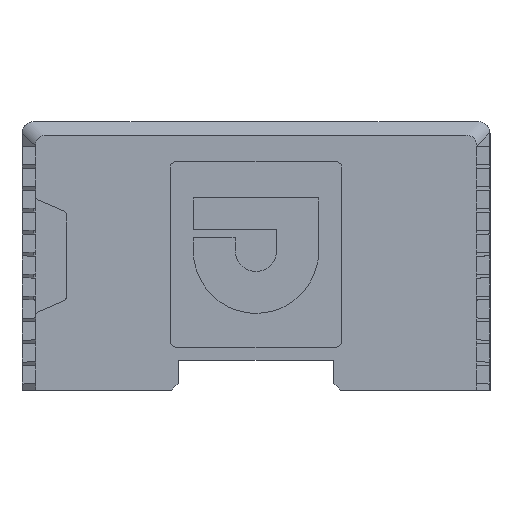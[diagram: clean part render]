
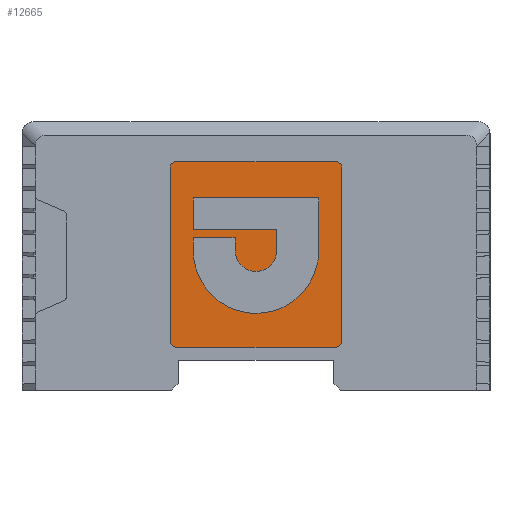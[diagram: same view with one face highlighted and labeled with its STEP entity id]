
A CAD part, top view. The second image highlights one B-rep face of the part: STEP entity #12665.
In plain terms, the highlighted planar face has unit normal (0, 0, 1).
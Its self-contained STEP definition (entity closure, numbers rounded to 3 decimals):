
#760=CARTESIAN_POINT('',(18.076,20.,4.2));
#761=DIRECTION('',(0.,0.,1.));
#762=DIRECTION('',(1.,0.,0.));
#763=AXIS2_PLACEMENT_3D('',#760,#761,#762);
#768=DIRECTION('',(0.,-1.,0.));
#769=VECTOR('',#768,39.3);
#770=CARTESIAN_POINT('',(19.576,20.,4.2));
#771=LINE('',#770,#769);
#775=CARTESIAN_POINT('',(18.076,-19.3,4.2));
#776=DIRECTION('',(0.,0.,1.));
#777=DIRECTION('',(0.,-1.,0.));
#778=AXIS2_PLACEMENT_3D('',#775,#776,#777);
#783=DIRECTION('',(1.,0.,0.));
#784=VECTOR('',#783,36.151);
#785=CARTESIAN_POINT('',(-18.076,-20.8,4.2));
#786=LINE('',#785,#784);
#790=CARTESIAN_POINT('',(-18.076,-19.3,4.2));
#791=DIRECTION('',(0.,0.,1.));
#792=DIRECTION('',(-1.,0.,0.));
#793=AXIS2_PLACEMENT_3D('',#790,#791,#792);
#798=DIRECTION('',(0.,-1.,0.));
#799=VECTOR('',#798,39.3);
#800=CARTESIAN_POINT('',(-19.576,20.,4.2));
#801=LINE('',#800,#799);
#805=CARTESIAN_POINT('',(-18.076,20.,4.2));
#806=DIRECTION('',(0.,0.,1.));
#807=DIRECTION('',(0.,1.,0.));
#808=AXIS2_PLACEMENT_3D('',#805,#806,#807);
#813=DIRECTION('',(1.,0.,0.));
#814=VECTOR('',#813,36.151);
#815=CARTESIAN_POINT('',(-18.076,21.5,4.2));
#816=LINE('',#815,#814);
#820=DIRECTION('',(-1.,0.,0.));
#821=VECTOR('',#820,28.657);
#822=CARTESIAN_POINT('',(14.333,13.202,4.2));
#823=LINE('',#822,#821);
#827=DIRECTION('',(0.,-1.,0.));
#828=VECTOR('',#827,7.175);
#829=CARTESIAN_POINT('',(-14.324,13.202,4.2));
#830=LINE('',#829,#828);
#834=DIRECTION('',(1.,0.,0.));
#835=VECTOR('',#834,19.038);
#836=CARTESIAN_POINT('',(-14.324,6.027,4.2));
#837=LINE('',#836,#835);
#841=DIRECTION('',(0.001,-1.,0.));
#842=VECTOR('',#841,4.836);
#843=CARTESIAN_POINT('',(4.714,6.027,4.2));
#844=LINE('',#843,#842);
#848=CARTESIAN_POINT('',(4.72,1.191,4.2));
#849=CARTESIAN_POINT('',(4.72,-0.014,4.2));
#850=CARTESIAN_POINT('',(3.953,-1.915,4.2));
#851=CARTESIAN_POINT('',(1.875,-3.28,4.2));
#852=CARTESIAN_POINT('',(0.,-3.652,4.2));
#853=CARTESIAN_POINT('',(-1.884,-3.27,4.2));
#854=CARTESIAN_POINT('',(-3.974,-1.881,4.2));
#855=CARTESIAN_POINT('',(-4.772,0.033,4.2));
#856=CARTESIAN_POINT('',(-4.772,1.251,4.2));
#861=DIRECTION('',(0.,1.,0.));
#862=VECTOR('',#861,2.866);
#863=CARTESIAN_POINT('',(-4.772,1.251,4.2));
#864=LINE('',#863,#862);
#868=DIRECTION('',(-1.,0.,0.));
#869=VECTOR('',#868,9.552);
#870=CARTESIAN_POINT('',(-4.772,4.117,4.2));
#871=LINE('',#870,#869);
#875=DIRECTION('',(0.,-1.,0.));
#876=VECTOR('',#875,2.866);
#877=CARTESIAN_POINT('',(-14.324,4.117,4.2));
#878=LINE('',#877,#876);
#882=CARTESIAN_POINT('',(-14.324,1.251,4.2));
#883=CARTESIAN_POINT('',(-14.324,-2.404,4.2));
#884=CARTESIAN_POINT('',(-11.935,-8.148,4.2));
#885=CARTESIAN_POINT('',(-6.465,-11.768,4.2));
#886=CARTESIAN_POINT('',(-2.875,-12.887,4.2));
#887=CARTESIAN_POINT('',(0.004,-13.174,4.2));
#888=CARTESIAN_POINT('',(2.883,-12.887,4.2));
#889=CARTESIAN_POINT('',(6.473,-11.768,4.2));
#890=CARTESIAN_POINT('',(11.943,-8.148,4.2));
#891=CARTESIAN_POINT('',(14.333,-2.404,4.2));
#892=CARTESIAN_POINT('',(14.333,1.251,4.2));
#897=DIRECTION('',(0.,1.,0.));
#898=VECTOR('',#897,11.951);
#899=CARTESIAN_POINT('',(14.333,1.251,4.2));
#900=LINE('',#899,#898);
#10368=CARTESIAN_POINT('',(-19.576,-19.3,4.2));
#10369=CARTESIAN_POINT('',(-18.076,-20.8,4.2));
#10370=VERTEX_POINT('',#10368);
#10371=VERTEX_POINT('',#10369);
#10376=CARTESIAN_POINT('',(18.076,-20.8,4.2));
#10378=VERTEX_POINT('',#10376);
#10380=CARTESIAN_POINT('',(19.576,-19.3,4.2));
#10381=VERTEX_POINT('',#10380);
#10402=CARTESIAN_POINT('',(14.333,13.202,4.2));
#10403=CARTESIAN_POINT('',(-14.324,13.202,4.2));
#10404=VERTEX_POINT('',#10402);
#10405=VERTEX_POINT('',#10403);
#10406=CARTESIAN_POINT('',(-14.324,6.027,4.2));
#10407=VERTEX_POINT('',#10406);
#10408=CARTESIAN_POINT('',(4.714,6.027,4.2));
#10409=VERTEX_POINT('',#10408);
#10410=CARTESIAN_POINT('',(4.72,1.191,4.2));
#10411=VERTEX_POINT('',#10410);
#10412=VERTEX_POINT('',#856);
#10413=CARTESIAN_POINT('',(-4.772,4.117,4.2));
#10414=VERTEX_POINT('',#10413);
#10415=CARTESIAN_POINT('',(-14.324,4.117,4.2));
#10416=VERTEX_POINT('',#10415);
#10417=CARTESIAN_POINT('',(-14.324,1.251,4.2));
#10418=VERTEX_POINT('',#10417);
#10419=VERTEX_POINT('',#892);
#10620=CARTESIAN_POINT('',(19.576,20.,4.2));
#10622=VERTEX_POINT('',#10620);
#10624=CARTESIAN_POINT('',(18.076,21.5,4.2));
#10625=VERTEX_POINT('',#10624);
#10628=CARTESIAN_POINT('',(-18.076,21.5,4.2));
#10629=CARTESIAN_POINT('',(-19.576,20.,4.2));
#10630=VERTEX_POINT('',#10628);
#10631=VERTEX_POINT('',#10629);
#12626=CARTESIAN_POINT('',(0.,0.,4.2));
#12627=DIRECTION('',(0.,0.,1.));
#12628=DIRECTION('',(0.,-1.,0.));
#12629=AXIS2_PLACEMENT_3D('',#12626,#12627,#12628);
#12630=PLANE('',#12629);
#12631=ORIENTED_EDGE('',*,*,#12563,.F.);
#12632=ORIENTED_EDGE('',*,*,#12579,.T.);
#12633=ORIENTED_EDGE('',*,*,#12591,.F.);
#12634=ORIENTED_EDGE('',*,*,#12605,.F.);
#12635=ORIENTED_EDGE('',*,*,#12617,.F.);
#12637=ORIENTED_EDGE('',*,*,#12636,.F.);
#12639=ORIENTED_EDGE('',*,*,#12638,.F.);
#12640=ORIENTED_EDGE('',*,*,#12548,.T.);
#12641=EDGE_LOOP('',(#12631,#12632,#12633,#12634,#12635,#12637,#12639,#12640));
#12642=FACE_OUTER_BOUND('',#12641,.F.);
#12644=ORIENTED_EDGE('',*,*,#12643,.T.);
#12646=ORIENTED_EDGE('',*,*,#12645,.T.);
#12648=ORIENTED_EDGE('',*,*,#12647,.T.);
#12650=ORIENTED_EDGE('',*,*,#12649,.T.);
#12652=ORIENTED_EDGE('',*,*,#12651,.T.);
#12654=ORIENTED_EDGE('',*,*,#12653,.T.);
#12656=ORIENTED_EDGE('',*,*,#12655,.T.);
#12658=ORIENTED_EDGE('',*,*,#12657,.T.);
#12660=ORIENTED_EDGE('',*,*,#12659,.T.);
#12662=ORIENTED_EDGE('',*,*,#12661,.T.);
#12663=EDGE_LOOP('',(#12644,#12646,#12648,#12650,#12652,#12654,#12656,#12658,
#12660,#12662));
#12664=FACE_BOUND('',#12663,.F.);
#12665=ADVANCED_FACE('',(#12642,#12664),#12630,.T.);
#764=CIRCLE('',#763,1.5);
#779=CIRCLE('',#778,1.5);
#794=CIRCLE('',#793,1.5);
#809=CIRCLE('',#808,1.5);
#857=B_SPLINE_CURVE_WITH_KNOTS('',3,(#848,#849,#850,#851,#852,#853,#854,#855,
#856),.UNSPECIFIED.,.F.,.F.,(4,1,1,1,1,1,4),(0.,0.246,
0.369,0.497,0.626,0.751,1.),
.UNSPECIFIED.);
#893=B_SPLINE_CURVE_WITH_KNOTS('',3,(#882,#883,#884,#885,#886,#887,#888,#889,
#890,#891,#892),.UNSPECIFIED.,.F.,.F.,(4,1,1,1,1,1,1,1,4),(0.,
0.247,0.371,0.435,0.5,0.565,
0.629,0.753,1.),.UNSPECIFIED.);
#12548=EDGE_CURVE('',#10630,#10625,#816,.T.);
#12563=EDGE_CURVE('',#10622,#10625,#764,.T.);
#12579=EDGE_CURVE('',#10622,#10381,#771,.T.);
#12591=EDGE_CURVE('',#10378,#10381,#779,.T.);
#12605=EDGE_CURVE('',#10371,#10378,#786,.T.);
#12617=EDGE_CURVE('',#10370,#10371,#794,.T.);
#12636=EDGE_CURVE('',#10631,#10370,#801,.T.);
#12638=EDGE_CURVE('',#10630,#10631,#809,.T.);
#12643=EDGE_CURVE('',#10404,#10405,#823,.T.);
#12645=EDGE_CURVE('',#10405,#10407,#830,.T.);
#12647=EDGE_CURVE('',#10407,#10409,#837,.T.);
#12649=EDGE_CURVE('',#10409,#10411,#844,.T.);
#12651=EDGE_CURVE('',#10411,#10412,#857,.T.);
#12653=EDGE_CURVE('',#10412,#10414,#864,.T.);
#12655=EDGE_CURVE('',#10414,#10416,#871,.T.);
#12657=EDGE_CURVE('',#10416,#10418,#878,.T.);
#12659=EDGE_CURVE('',#10418,#10419,#893,.T.);
#12661=EDGE_CURVE('',#10419,#10404,#900,.T.);
